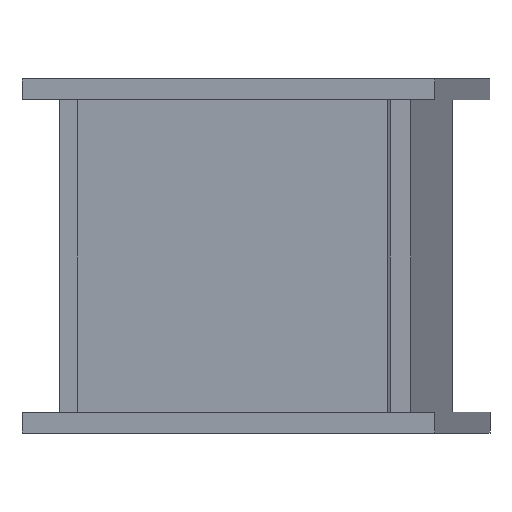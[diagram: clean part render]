
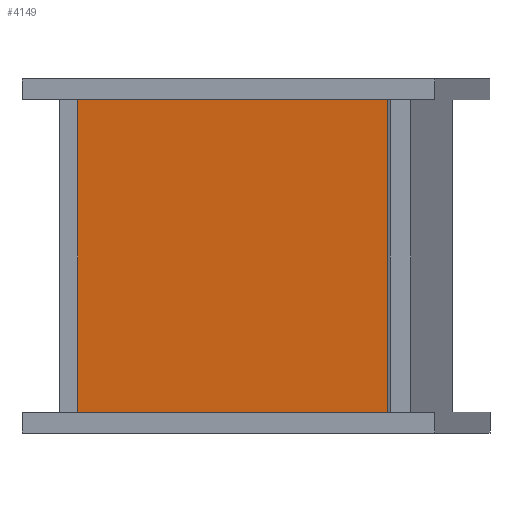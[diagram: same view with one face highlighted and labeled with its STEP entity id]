
A CAD part, left-side view. The second image highlights one B-rep face of the part: STEP entity #4149.
In plain terms, the highlighted planar face has unit normal (-0.991, 0.132, 0) as drawn and (0, 0, -1) by its records, which use the part's own axes.
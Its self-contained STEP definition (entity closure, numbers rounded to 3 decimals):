
#1433 = EDGE_CURVE ( 'NONE', #9076, #9095, #11268, .T. ) ;
#1448 = EDGE_CURVE ( 'NONE', #9095, #9113, #11233, .T. ) ;
#1522 = EDGE_CURVE ( 'NONE', #9070, #9076, #11349, .T. ) ;
#1549 = EDGE_CURVE ( 'NONE', #9113, #9070, #11343, .T. ) ;
#2115 = CARTESIAN_POINT ( 'NONE',  ( -15., 15., 0. ) ) ;
#2119 = DIRECTION ( 'NONE',  ( 0., -1., 0. ) ) ;
#3442 = ORIENTED_EDGE ( 'NONE', *, *, #1433, .F. ) ;
#3459 = ORIENTED_EDGE ( 'NONE', *, *, #1549, .F. ) ;
#3461 = ORIENTED_EDGE ( 'NONE', *, *, #1522, .F. ) ;
#3475 = ORIENTED_EDGE ( 'NONE', *, *, #1448, .F. ) ;
#4149 = ADVANCED_FACE ( 'NONE', ( #8013 ), #13063, .F. ) ;
#4283 = CARTESIAN_POINT ( 'NONE',  ( -15., -15., 0. ) ) ;
#4315 = DIRECTION ( 'NONE',  ( 1., 0., 0. ) ) ;
#4398 = CARTESIAN_POINT ( 'NONE',  ( 15., 15., 0. ) ) ;
#4404 = DIRECTION ( 'NONE',  ( 0., 1., 0. ) ) ;
#4509 = CARTESIAN_POINT ( 'NONE',  ( -15., 15., 0. ) ) ;
#4534 = DIRECTION ( 'NONE',  ( -1., 0., 0. ) ) ;
#6350 = CARTESIAN_POINT ( 'NONE',  ( 15., -15., 0. ) ) ;
#6351 = CARTESIAN_POINT ( 'NONE',  ( -15., -15., 0. ) ) ;
#6399 = CARTESIAN_POINT ( 'NONE',  ( 15., 15., 0. ) ) ;
#6408 = CARTESIAN_POINT ( 'NONE',  ( -15., 15., 0. ) ) ;
#8013 = FACE_OUTER_BOUND ( 'NONE', #14707, .T. ) ;
#9046 = AXIS2_PLACEMENT_3D ( 'NONE', #13054, #13042, #13059 ) ;
#9070 = VERTEX_POINT ( 'NONE', #6351 ) ;
#9076 = VERTEX_POINT ( 'NONE', #6350 ) ;
#9095 = VERTEX_POINT ( 'NONE', #6399 ) ;
#9113 = VERTEX_POINT ( 'NONE', #6408 ) ;
#11233 = LINE ( 'NONE', #4509, #11236 ) ;
#11236 = VECTOR ( 'NONE', #4534, 1000. ) ;
#11254 = VECTOR ( 'NONE', #4404, 1000. ) ;
#11268 = LINE ( 'NONE', #4398, #11254 ) ;
#11343 = LINE ( 'NONE', #2115, #11347 ) ;
#11347 = VECTOR ( 'NONE', #2119, 1000. ) ;
#11349 = LINE ( 'NONE', #4283, #11392 ) ;
#11392 = VECTOR ( 'NONE', #4315, 1000. ) ;
#13042 = DIRECTION ( 'NONE',  ( 0., 0., 1. ) ) ;
#13054 = CARTESIAN_POINT ( 'NONE',  ( 0., 0., 0. ) ) ;
#13059 = DIRECTION ( 'NONE',  ( 1., 0., 0. ) ) ;
#13063 = PLANE ( 'NONE',  #9046 ) ;
#14707 = EDGE_LOOP ( 'NONE', ( #3442, #3461, #3459, #3475 ) ) ;
